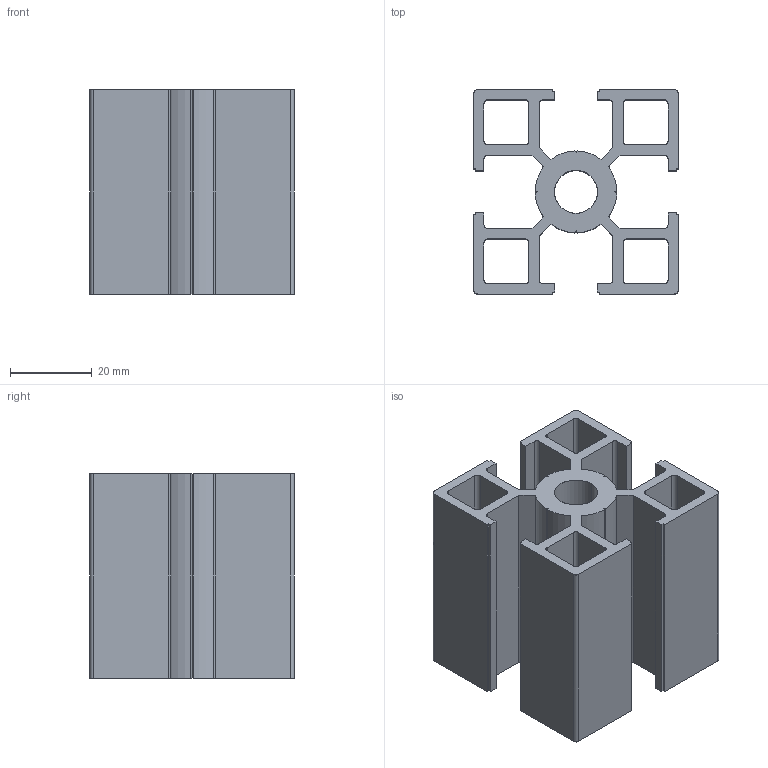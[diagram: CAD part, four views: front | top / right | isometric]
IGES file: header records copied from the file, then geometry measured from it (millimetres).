
Start section: SolidWorks IGES file using analytic representation for surfaces
Global section: file name: C:\Documents and Settings\URETIM3\Desktop\yeni katalog tolgay düzenli\C kataloðu\50x50 eloksallý sigma alüminyum profil\765 050 050.IGS; native system: SolidWorks 2006 by SolidWorks Corporation; preprocessor: SolidWorks 2006 by SolidWorks Corporation; author: URETIM3; date: 060912.104237; units: millimetre
Bounding box: 50 x 50 x 50 mm (x, y, z)
Surface area: 31167.2 mm2 (no closed solid volume)
Topology: 0 solids, 0 shells, 120 faces, 1208 edges, 1208 vertices
Faces by surface type: bspline 82, revolution 38
